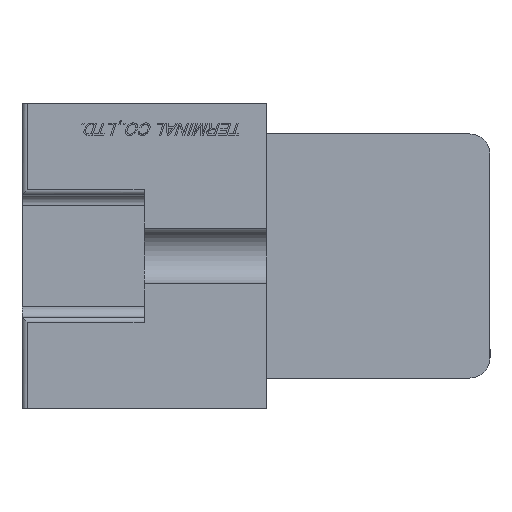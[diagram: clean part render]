
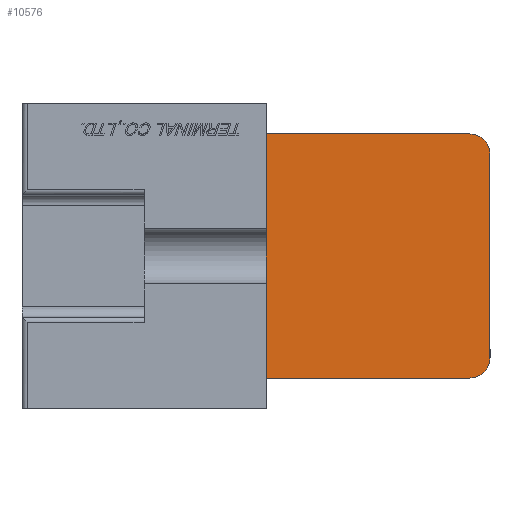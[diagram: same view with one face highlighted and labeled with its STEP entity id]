
A CAD part, left-side view. The second image highlights one B-rep face of the part: STEP entity #10576.
In plain terms, the highlighted planar face has unit normal (-1, 0, 0).
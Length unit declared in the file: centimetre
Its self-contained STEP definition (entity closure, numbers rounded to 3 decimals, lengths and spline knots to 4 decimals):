
#745=PLANE('',#18763);
#1071=CIRCLE('',#18708,0.2);
#1073=CIRCLE('',#18712,0.2);
#1653=VERTEX_POINT('',#15468);
#1654=VERTEX_POINT('',#15470);
#1676=VERTEX_POINT('',#15617);
#1684=VERTEX_POINT('',#15636);
#2139=VERTEX_POINT('',#17618);
#2147=VERTEX_POINT('',#17704);
#2538=VECTOR('',#11921,1.);
#2563=VECTOR('',#11999,1.);
#2572=VECTOR('',#12011,1.);
#3056=VECTOR('',#12874,1.);
#3417=LINE('',#15469,#2538);
#3442=LINE('',#15618,#2563);
#3451=LINE('',#15637,#2572);
#3935=LINE('',#17703,#3056);
#4640=EDGE_CURVE('',#1653,#1654,#3417,.T.);
#4685=EDGE_CURVE('',#1676,#1653,#3442,.T.);
#4696=EDGE_CURVE('',#1676,#1684,#3451,.T.);
#5370=EDGE_CURVE('',#1654,#2139,#1071,.T.);
#5381=EDGE_CURVE('',#2147,#2139,#3935,.T.);
#5383=EDGE_CURVE('',#2147,#1684,#1073,.T.);
#8399=ORIENTED_EDGE('',*,*,#5370,.F.);
#8400=ORIENTED_EDGE('',*,*,#4640,.F.);
#8401=ORIENTED_EDGE('',*,*,#4685,.F.);
#8402=ORIENTED_EDGE('',*,*,#4696,.T.);
#8403=ORIENTED_EDGE('',*,*,#5383,.F.);
#8404=ORIENTED_EDGE('',*,*,#5381,.T.);
#9165=EDGE_LOOP('',(#8399,#8400,#8401,#8402,#8403,#8404));
#9926=FACE_BOUND('',#9165,.T.);
#10576=ADVANCED_FACE('',(#9926),#745,.T.);
#11921=DIRECTION('',(0.,-1.,0.));
#11999=DIRECTION('',(0.,0.,1.));
#12011=DIRECTION('',(0.,-1.,0.));
#12863=DIRECTION('',(1.,0.,0.));
#12864=DIRECTION('',(0.,-0.141,0.141));
#12874=DIRECTION('',(0.,0.,1.));
#12878=DIRECTION('',(1.,0.,0.));
#12879=DIRECTION('',(0.,-0.141,-0.141));
#12986=DIRECTION('',(-1.,0.,0.));
#15468=CARTESIAN_POINT('',(-4.15,1.1,1.2));
#15469=CARTESIAN_POINT('',(-4.15,1.1,1.2));
#15470=CARTESIAN_POINT('',(-4.15,-0.9,1.2));
#15617=CARTESIAN_POINT('',(-4.15,1.1,-1.2));
#15618=CARTESIAN_POINT('',(-4.15,1.1,0.));
#15636=CARTESIAN_POINT('',(-4.15,-0.9,-1.2));
#15637=CARTESIAN_POINT('',(-4.15,1.1,-1.2));
#17617=CARTESIAN_POINT('',(-4.15,-0.9,1.));
#17618=CARTESIAN_POINT('',(-4.15,-1.1,1.));
#17703=CARTESIAN_POINT('',(-4.15,-1.1,-1.2));
#17704=CARTESIAN_POINT('',(-4.15,-1.1,-1.));
#17707=CARTESIAN_POINT('',(-4.15,-0.9,-1.));
#17800=CARTESIAN_POINT('',(-4.15,1.1,0.));
#18708=AXIS2_PLACEMENT_3D('',#17617,#12863,#12864);
#18712=AXIS2_PLACEMENT_3D('',#17707,#12878,#12879);
#18763=AXIS2_PLACEMENT_3D('',#17800,#12986,$);
